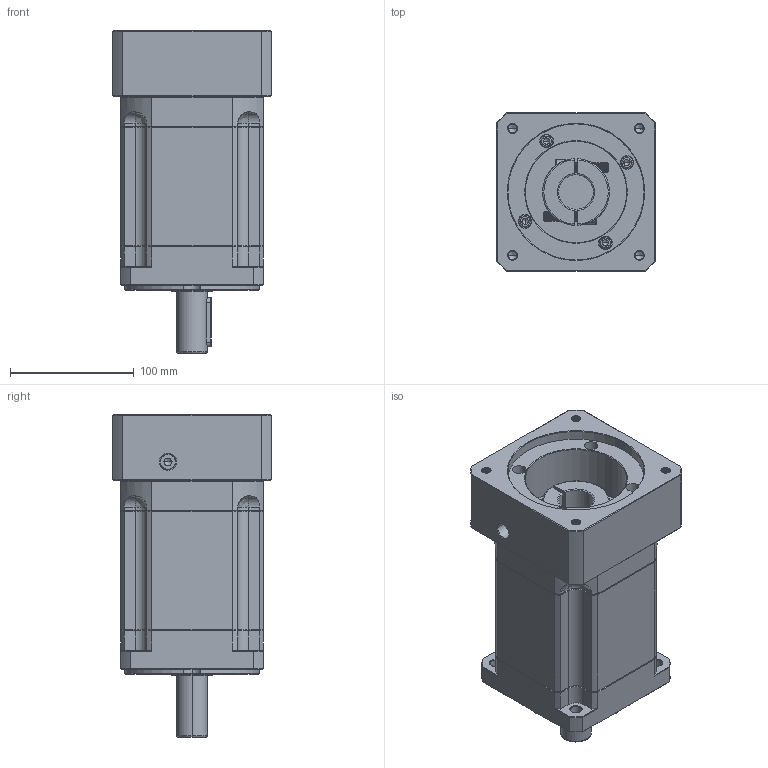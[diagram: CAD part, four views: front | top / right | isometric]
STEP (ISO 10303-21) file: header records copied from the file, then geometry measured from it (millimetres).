
FILE_DESCRIPTION (( 'STEP AP214' ), '1' );
FILE_NAME ('ZB115A-D25-L3-28-110-145-M8.step', '2023-03-02T08:59:16', ( '' ), ( 'Microsoft' ), 'SwSTEP 2.0', 'SolidWorks 2016', '' );
FILE_SCHEMA (( 'AUTOMOTIVE_DESIGN' ));
Length unit declared in the file: millimetre
Products named in the file (1): ZB115A-D25-L3-28-110-145-M8
Bounding box: 128 x 128 x 260.5 mm (x, y, z)
Volume: 2417451.5 mm3; surface area: 207938.2 mm2
Topology: 6 solids, 6 shells, 2112 faces, 5456 edges, 3438 vertices
Faces by surface type: plane 963, cylinder 439, cone 365, bspline 325, torus 20
Entity records: 112813 total; most frequent: CARTESIAN_POINT 40997, ORIENTED_EDGE 10844, DIRECTION 8892, EDGE_CURVE 5422, VERTEX_POINT 3438, VECTOR 3370, LINE 3370, AXIS2_PLACEMENT_3D 2761
